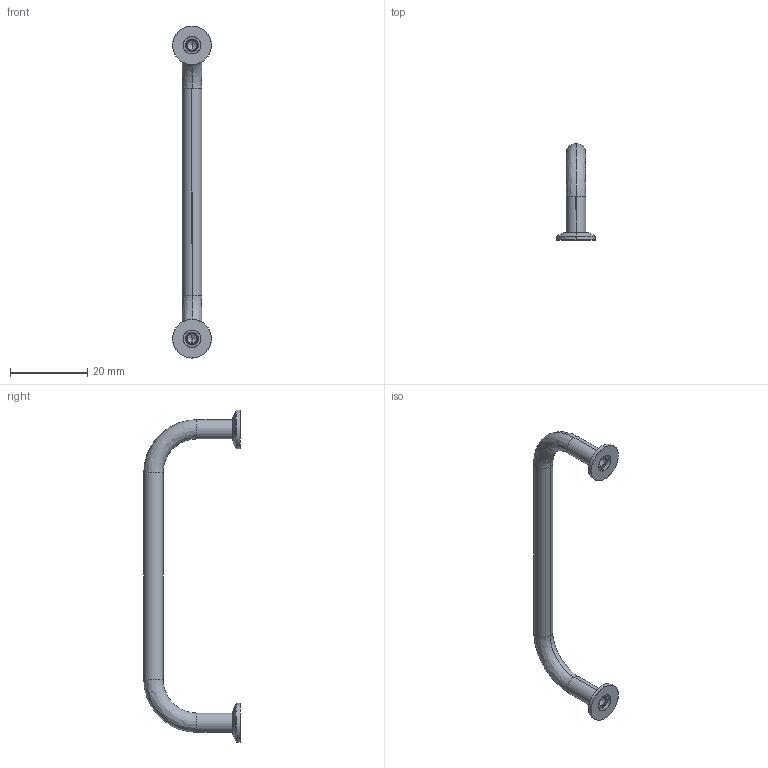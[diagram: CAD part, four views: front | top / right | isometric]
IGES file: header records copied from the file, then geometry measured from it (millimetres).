
Start section: SolidWorks IGES file using analytic representation for surfaces
Global section: file name: C:\Documents and Settings\IANO\Desktop\Temp File\Process pending\PCN pending\78700_v2\78700_v2_20170116_IGES\78700.W0007.igs; native system: SolidWorks 2009; preprocessor: SolidWorks 2009; author: IANO; date: 170310.095547; units: millimetre
Bounding box: 10 x 25 x 86 mm (x, y, z)
Surface area: 2242.3 mm2 (no closed solid volume)
Topology: 0 solids, 0 shells, 52 faces, 808 edges, 804 vertices
Faces by surface type: revolution 38, bspline 14
